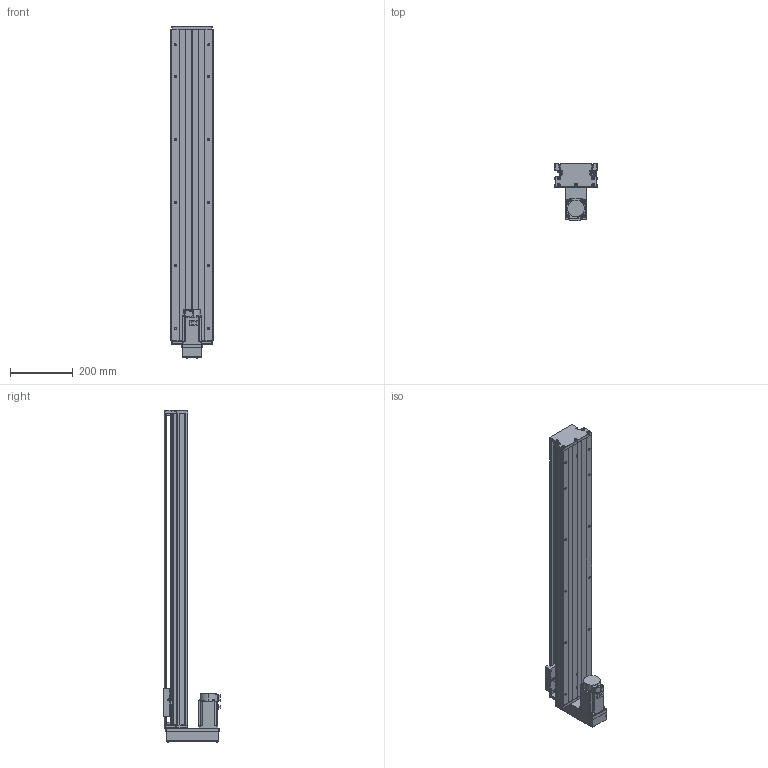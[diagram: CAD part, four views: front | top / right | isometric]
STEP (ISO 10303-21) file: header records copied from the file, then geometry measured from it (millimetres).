
FILE_DESCRIPTION (( 'STEP AP203' ), '1' );
FILE_NAME ('KTH130-850-BM-M40-C4.step', '2023-06-30T04:06:04', ( '微软用户' ), ( '微软中国' ), 'SwSTEP 2.0', 'SolidWorks 2020', '' );
FILE_SCHEMA (( 'CONFIG_CONTROL_DESIGN' ));
Length unit declared in the file: millimetre
Products named in the file (19): GBT70.1 M5℅16; す晦芛蹟隊 M3℅5; GBT 70.2-M3¡Á5_M3¡Á6; GBT 70.3-M3℅8; GTH14-001_850; CTHA60-017; HG-KN43J-S100; KTH130-002_KTH130-002; EE_SX911P_R; GBT 70.2-M4¡Á35_M4¡Á35; KTH130-004; CTHA60-016; GTH14-015-2_CTHA86-015-2; KTH130-005; GBT 70.1-M3℅5; GTH14-033; GB1155-6X6; GBT77-2000 M3×3; KTH130-850-BM-M40-C4
Assembly tree (53 placements, depth 2):
  KTH130-850-BM-M40-C4
    GTH14-001_850
    KTH130-002_KTH130-002
    KTH130-004
    KTH130-005
    GB1155-6X6  x2
    GBT70.1 M5℅16  x10
    GBT 70.2-M3¡Á5_M3¡Á6  x4
    CTHA60-017  x3
    EE_SX911P_R  x3
    CTHA60-016  x2
    GBT 70.1-M3℅5  x6
    GBT77-2000 M3×3  x6
    す晦芛蹟隊 M3℅5  x2
    GBT 70.3-M3℅8  x4
    HG-KN43J-S100
    GBT 70.2-M4¡Á35_M4¡Á35  x4
    GTH14-015-2_CTHA86-015-2
    GTH14-033
Bounding box: 135 x 181.8 x 1054.2 mm (x, y, z)
Volume: 5920673.2 mm3; surface area: 947631 mm2
Topology: 56 solids, 56 shells, 2233 faces, 5390 edges, 3358 vertices
Faces by surface type: plane 1199, cylinder 620, cone 290, torus 100, sphere 24
Entity records: 40866 total; most frequent: CARTESIAN_POINT 8684, DIRECTION 6099, ORIENTED_EDGE 5980, EDGE_CURVE 2990, AXIS2_PLACEMENT_3D 2104, VERTEX_POINT 1911, LINE 1891, VECTOR 1891
